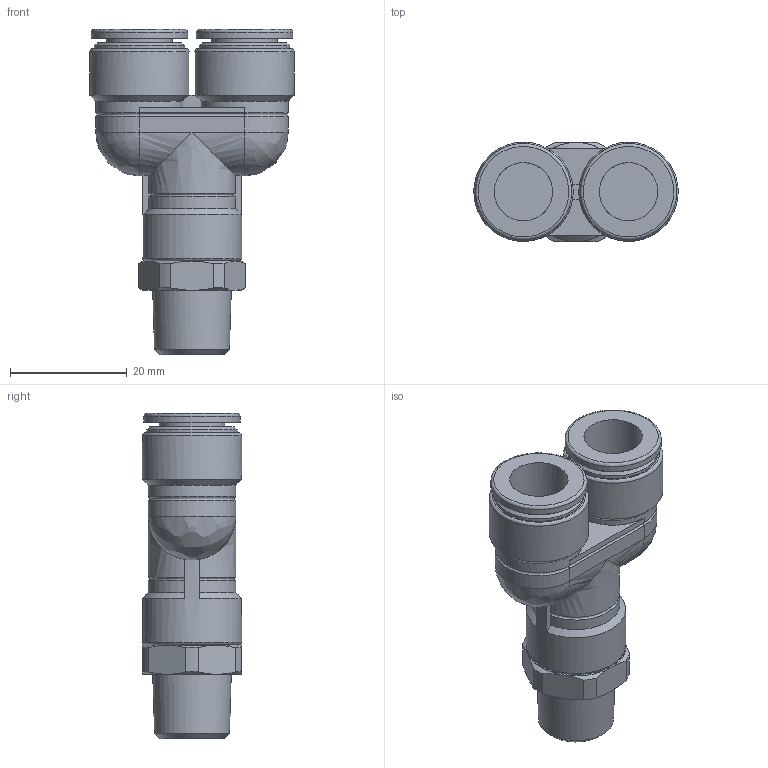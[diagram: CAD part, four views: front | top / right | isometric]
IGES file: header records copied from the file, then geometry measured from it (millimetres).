
Global section: file name: [12] FS10-02MY FS10-02MYW; native system: Autodesk Inventor 2014; preprocessor: unknown; author: kazuhiro.t; date: 20130806.165601; units: millimetre
Bounding box: 35 x 17 x 55.7 mm (x, y, z)
Volume: 13587.8 mm3; surface area: 6100.7 mm2
Topology: 1 solids, 1 shells, 92 faces, 212 edges, 128 vertices
Faces by surface type: bspline 92
